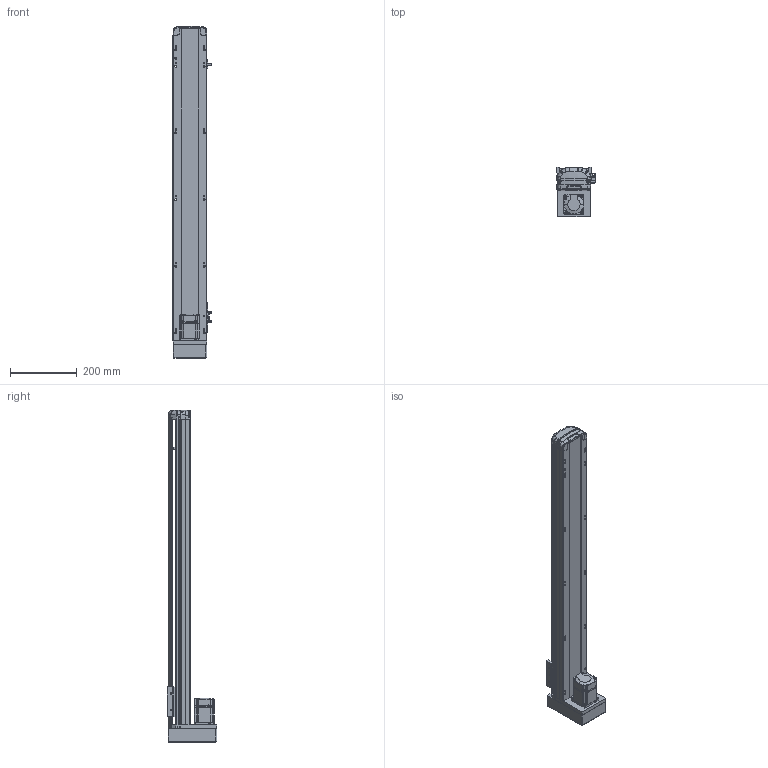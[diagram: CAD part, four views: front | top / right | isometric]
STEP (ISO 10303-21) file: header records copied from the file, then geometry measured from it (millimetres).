
FILE_DESCRIPTION (( 'STEP AP214' ), '1' );
FILE_NAME ('RTH10-XX-750-M-M20-C4.STEP', '2025-10-25T04:51:40', ( 'Microsoft' ), ( 'Microsoft' ), 'SwSTEP 2.0', 'SolidWorks 2018', '' );
FILE_SCHEMA (( 'AUTOMOTIVE_DESIGN' ));
Length unit declared in the file: millimetre
Products named in the file (10): N_OMRON EE-SX672 传感器^RTH10-XX-XX-M-M20-C4; N_RTH13-L-012覜茼え俋离^RTH10-XX-XX-M-M20-C4; N_RTH12-M-011P-臏倰第菁釱^RTH10-XX-XX-M-M20-C4; N_RTH12-M-008-萇儂啣^RTH10-XX-XX-M-M20-C4; N_RTH12-GY-001P^RTH10-XX-XX-M-M20-C4; N_RTH12-GY-004-賑釱^RTH10-XX-XX-M-M20-C4; N_RTH12-M-018-裔赽^RTH10-XX-XX-M-M20-C4; RTH10-XX-750-M-M20-C4; N_200W-1^RTH10-XX-XX-M-M20-C4; N_RTH12-M-007P-奻裔^RTH10-XX-XX-M-M20-C4
Assembly tree (11 placements, depth 2):
  RTH10-XX-750-M-M20-C4
    N_RTH12-M-011P-臏倰第菁釱^RTH10-XX-XX-M-M20-C4
    N_RTH13-L-012覜茼え俋离^RTH10-XX-XX-M-M20-C4
    N_OMRON EE-SX672 传感器^RTH10-XX-XX-M-M20-C4  x3
    N_200W-1^RTH10-XX-XX-M-M20-C4
    N_RTH12-M-007P-奻裔^RTH10-XX-XX-M-M20-C4
    N_RTH12-M-008-萇儂啣^RTH10-XX-XX-M-M20-C4
    N_RTH12-M-018-裔赽^RTH10-XX-XX-M-M20-C4
    N_RTH12-GY-004-賑釱^RTH10-XX-XX-M-M20-C4
    N_RTH12-GY-001P^RTH10-XX-XX-M-M20-C4
Bounding box: 116.5 x 149 x 997.31 mm (x, y, z)
Volume: 4624136.6 mm3; surface area: 686993 mm2
Topology: 10 solids, 12 shells, 2009 faces, 5614 edges, 3687 vertices
Faces by surface type: plane 995, cylinder 507, bspline 472, cone 29, sphere 4, torus 2
Entity records: 60756 total; most frequent: CARTESIAN_POINT 23659, ORIENTED_EDGE 8300, DIRECTION 6464, EDGE_CURVE 4156, VERTEX_POINT 2731, VECTOR 2224, LINE 2224, AXIS2_PLACEMENT_3D 2120
